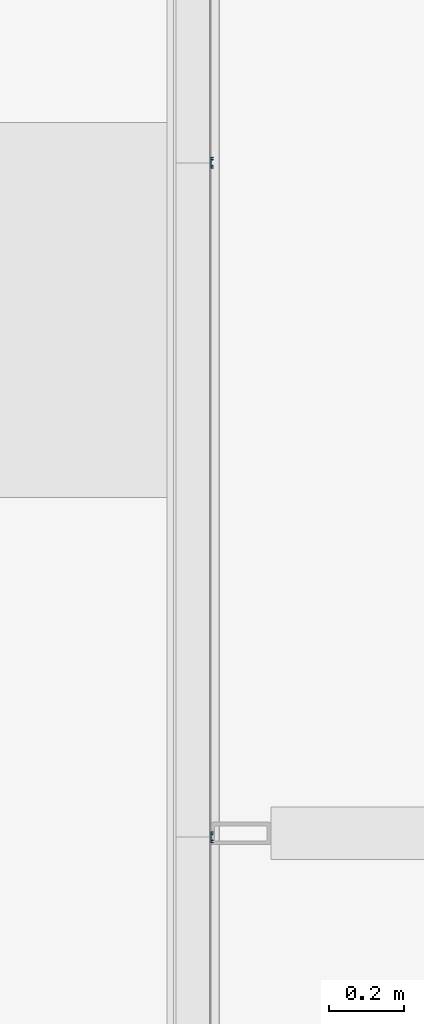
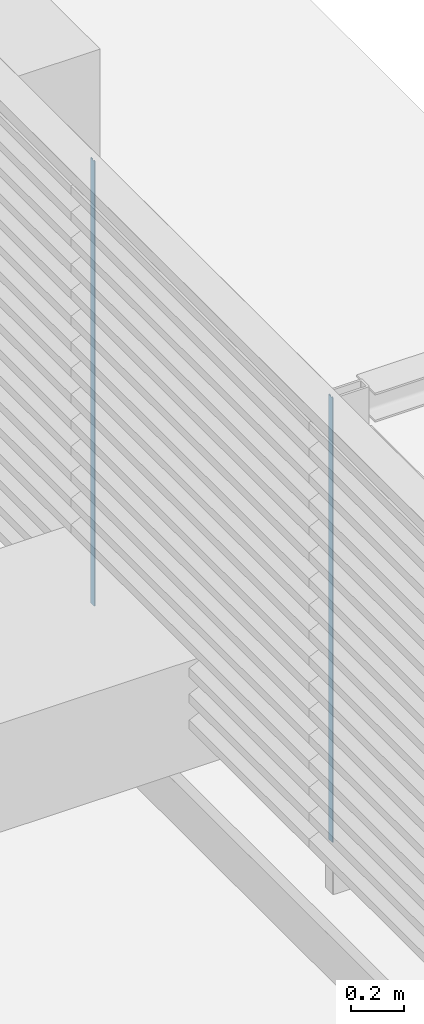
# One storey, part 16 of 32: 2 members, 1 element without a shape of its own.
"""IFC2X3 building model written with IfcOpenShell, lengths in millimetres."""

import ifcopenshell
import ifcopenshell.guid

model = None  # the IFC model being written
_history = None  # IfcOwnerHistory: only IFC2X3 demands one
_inside = {}  # id of a spatial element -> (the spatial element, [elements in it])
_under = {}  # id of a project, library or spatial element -> (it, [spatial elements below it])
_declared = {}  # id of a project -> (the project, [libraries it declares])
_typed = {}  # id of a type object -> (the type object, [elements of that type])
_made_of = {}  # id of a material, layer set ... -> (it, [elements and type objects made of it])


def new_model(schema):
    """Start an empty IFC model of exactly this schema.

    Asked for "IFC4X3", IfcOpenShell would pick the latest addendum, in which some entities
    have other attributes; the version numbers below select the first issue.
    IFC2X3 requires an IfcOwnerHistory on every rooted entity: one is made here for all.
    """
    global model, _history
    if schema == "IFC4X3":
        model = ifcopenshell.file(schema_version=(4, 3, 0, 0))
    else:
        model = ifcopenshell.file(schema=schema)
    _inside.clear()
    _under.clear()
    _declared.clear()
    _typed.clear()
    _made_of.clear()
    _history = None
    if model.schema == "IFC2X3":
        org = make("IfcOrganization", Name="unknown")
        user = make(
            "IfcPersonAndOrganization",
            ThePerson=make("IfcPerson", FamilyName="unknown"),
            TheOrganization=org,
        )
        app = make(
            "IfcApplication",
            ApplicationDeveloper=org,
            Version="unknown",
            ApplicationFullName="unknown",
            ApplicationIdentifier="unknown",
        )
        _history = make(
            "IfcOwnerHistory",
            OwningUser=user,
            OwningApplication=app,
            ChangeAction="ADDED",
            CreationDate=0,
        )
    return model


def make(cls, **values):
    """One entity of the class cls with the attributes given. An attribute that is None is left unset."""
    return model.create_entity(
        cls, **{name: value for name, value in values.items() if value is not None}
    )


def entity(cls, *values):
    """Any entity or typed value of the class cls, its attributes in the order of the schema. None: left unset."""
    e = model.create_entity(cls)
    for i, value in enumerate(values):
        if value is not None:
            e[i] = value
    return e


def rooted(cls, **values):
    """An entity with a GlobalId (a new one), such as an element, a storey or a relation."""
    return make(cls, GlobalId=ifcopenshell.guid.new(), OwnerHistory=_history, **values)


def si_unit(unit_type, name, prefix=None):
    """IfcSIUnit, for example si_unit("LENGTHUNIT", "METRE", prefix="MILLI")."""
    return make("IfcSIUnit", UnitType=unit_type, Prefix=prefix, Name=name)


def converted_unit(unit_type, name, factor, base, dimensions=None, offset=None):
    """IfcConversionBasedUnit, such as the inch: factor (a typed value) times the base unit."""
    return make(
        "IfcConversionBasedUnit"
        if offset is None
        else "IfcConversionBasedUnitWithOffset",
        ConversionOffset=offset,
        Dimensions=None
        if dimensions is None
        else entity("IfcDimensionalExponents", *dimensions),
        UnitType=unit_type,
        Name=name,
        ConversionFactor=make(
            "IfcMeasureWithUnit", ValueComponent=factor, UnitComponent=base
        ),
    )


def derived_unit(unit_type, elements):
    """IfcDerivedUnit: a product of units, each with its exponent."""
    return make(
        "IfcDerivedUnit",
        Elements=[
            make("IfcDerivedUnitElement", Unit=unit, Exponent=power)
            for unit, power in elements
        ],
        UnitType=unit_type,
    )


def assignment(units):
    """IfcUnitAssignment: the units of a project."""
    return None if units is None else make("IfcUnitAssignment", Units=units)


def point(xyz):
    """IfcCartesianPoint."""
    return None if xyz is None else make("IfcCartesianPoint", Coordinates=xyz)


def direction(xyz):
    """IfcDirection."""
    return None if xyz is None else make("IfcDirection", DirectionRatios=xyz)


def frame(location, z_axis=None, x_axis=None):
    """IfcAxis2Placement3D, a coordinate frame: its origin and axes. An axis left out is left unset."""
    return make(
        "IfcAxis2Placement3D",
        Location=point(location),
        Axis=direction(z_axis),
        RefDirection=direction(x_axis),
    )


def frame_2d(location, x_axis=None):
    """IfcAxis2Placement2D, a coordinate frame in the plane: its origin and x axis."""
    return make(
        "IfcAxis2Placement2D", Location=point(location), RefDirection=direction(x_axis)
    )


def origin():
    """The frame at (0, 0, 0) with its axes left unset."""
    return frame((0.0, 0.0, 0.0))


def place(relative_to, where):
    """IfcLocalPlacement: puts the frame where relative to a parent placement (None: the world)."""
    return make(
        "IfcLocalPlacement", PlacementRelTo=relative_to, RelativePlacement=where
    )


def context(
    kind, dimensions, precision=None, world=None, true_north=None, identifier=None
):
    """IfcGeometricRepresentationContext, for example the 3D "Model" context."""
    return make(
        "IfcGeometricRepresentationContext",
        ContextIdentifier=identifier,
        ContextType=kind,
        CoordinateSpaceDimension=dimensions,
        Precision=precision,
        WorldCoordinateSystem=world,
        TrueNorth=true_north,
    )


def subcontext(parent, identifier, kind, view, scale=None):
    """IfcGeometricRepresentationSubContext, for example "Body" below "Model"."""
    return make(
        "IfcGeometricRepresentationSubContext",
        ContextIdentifier=identifier,
        ContextType=kind,
        ParentContext=parent,
        TargetScale=scale,
        TargetView=view,
    )


def project(units=None, contexts=None):
    """IfcProject with its units and contexts."""
    return rooted(
        "IfcProject",
        Name="project",
        RepresentationContexts=contexts,
        UnitsInContext=assignment(units),
    )


def spatial(cls, under=None, at=None, **own):
    """A site, building, storey or space (cls), placed at a placement, below another one or the project."""
    s = rooted(cls, ObjectPlacement=at, **own)
    if under is not None:
        _under.setdefault(under.id(), (under, []))[1].append(s)
    return s


def polyline(points):
    """IfcPolyline through the points."""
    return make("IfcPolyline", Points=[point(p) for p in points])


def circle_curve(where, radius):
    """IfcCircle in the frame where."""
    return make("IfcCircle", Position=where, Radius=radius)


def parameter(value):
    """IfcParameterValue: where a trimmed curve begins or ends, as a parameter of its basis curve."""
    return model.create_entity("IfcParameterValue", value)


def trimmed(basis, trim1, trim2, sense, master):
    """IfcTrimmedCurve: the piece of a basis curve between two trims."""
    return make(
        "IfcTrimmedCurve",
        BasisCurve=basis,
        Trim1=trim1,
        Trim2=trim2,
        SenseAgreement=sense,
        MasterRepresentation=master,
    )


def segment(curve, same_sense, transition):
    """IfcCompositeCurveSegment."""
    return make(
        "IfcCompositeCurveSegment",
        Transition=transition,
        SameSense=same_sense,
        ParentCurve=curve,
    )


def composite_curve(segments, self_intersect=None):
    """IfcCompositeCurve: segments joined end to end."""
    return make("IfcCompositeCurve", Segments=segments, SelfIntersect=self_intersect)


def outline(outer, holes=None, kind="AREA"):
    """IfcArbitraryClosedProfileDef: a profile drawn as a closed curve; with holes, ...WithVoids."""
    if holes is None:
        return make("IfcArbitraryClosedProfileDef", ProfileType=kind, OuterCurve=outer)
    return make(
        "IfcArbitraryProfileDefWithVoids",
        ProfileType=kind,
        OuterCurve=outer,
        InnerCurves=holes,
    )


def extrude(swept, where, along, depth):
    """IfcExtrudedAreaSolid: the profile swept, set in the frame where, extruded along a direction by depth."""
    return make(
        "IfcExtrudedAreaSolid",
        SweptArea=swept,
        Position=where,
        ExtrudedDirection=direction(along),
        Depth=depth,
    )


def shape(context_of_items, identifier, shape_type, items):
    """IfcShapeRepresentation: the items that make up one representation, for example the "Body"."""
    return make(
        "IfcShapeRepresentation",
        ContextOfItems=context_of_items,
        RepresentationIdentifier=identifier,
        RepresentationType=shape_type,
        Items=items,
    )


def source(mapping_origin, context_of_items, identifier, shape_type, items):
    """IfcRepresentationMap: a shape defined once, which mapped items show again and again."""
    return make(
        "IfcRepresentationMap",
        MappingOrigin=mapping_origin,
        MappedRepresentation=shape(context_of_items, identifier, shape_type, items),
    )


def transform(
    local_origin,
    x_axis=None,
    y_axis=None,
    z_axis=None,
    scale=None,
    scale2=None,
    scale3=None,
    uniform=True,
):
    """IfcCartesianTransformationOperator3D, or its non-uniform kind. x_axis, y_axis, z_axis: its Axis1, 2, 3."""
    if uniform:
        return make(
            "IfcCartesianTransformationOperator3D",
            Axis1=direction(x_axis),
            Axis2=direction(y_axis),
            LocalOrigin=point(local_origin),
            Scale=scale,
            Axis3=direction(z_axis),
        )
    return make(
        "IfcCartesianTransformationOperator3DnonUniform",
        Axis1=direction(x_axis),
        Axis2=direction(y_axis),
        LocalOrigin=point(local_origin),
        Scale=scale,
        Axis3=direction(z_axis),
        Scale2=scale2,
        Scale3=scale3,
    )


def mapped(mapping_source, mapping_target):
    """IfcMappedItem: shows the shape of a source again, moved by a transform."""
    return make(
        "IfcMappedItem", MappingSource=mapping_source, MappingTarget=mapping_target
    )


def material(Name=None, Category=None):
    """IfcMaterial."""
    return make("IfcMaterial", Name=Name, Category=Category)


def made_of(thing, what):
    """Note that an element or type object is made of a material, layer set ...; save() writes the relation."""
    if what is not None:
        _made_of.setdefault(what.id(), (what, []))[1].append(thing)
    return thing


def type_object(cls, material=None, **own):
    """A type object (cls), such as IfcWallType, which elements share."""
    return made_of(rooted(cls, **own), material)


def type_shapes(of_type, sources):
    """Give a type object the sources (RepresentationMaps) that its elements show as mapped items."""
    of_type.RepresentationMaps = sources


def element(
    cls,
    number,
    at=None,
    inside=None,
    cuts=None,
    type_object=None,
    material=None,
    context=None,
    identifier="Body",
    shape_type=None,
    held_by="IfcProductDefinitionShape",
    body=None,
    shapes=None,
    **own,
):
    """One element of the class cls, such as IfcWall. Its Tag is "e" and its number.

    at: its placement. inside: the storey or other place that contains it. cuts: it is an
    opening in that element (IfcRelVoidsElement). A single representation is given by context,
    identifier, shape_type and body (its items); several are given by shapes. held_by: the class
    of the entity that holds the representations. save() writes the other relations.
    """
    e = rooted(cls, Tag="e%d" % number, ObjectPlacement=at, **own)
    if body is not None:
        shapes = [shape(context, identifier, shape_type, body)]
    if shapes is not None:
        e.Representation = make(held_by, Representations=shapes)
    if inside is not None:
        _inside.setdefault(inside.id(), (inside, []))[1].append(e)
    if cuts is not None:
        rooted(
            "IfcRelVoidsElement", RelatingBuildingElement=cuts, RelatedOpeningElement=e
        )
    if type_object is not None:
        _typed.setdefault(type_object.id(), (type_object, []))[1].append(e)
    return made_of(e, material)


def aggregate(whole, parts):
    """IfcRelAggregates: a whole, such as a stair, and the parts it consists of."""
    return rooted("IfcRelAggregates", RelatingObject=whole, RelatedObjects=parts)


def save(model, path):
    """Write the relations noted so far, then the file.

    IfcRelAggregates (storeys below a building ...), IfcRelContainedInSpatialStructure (elements
    in a storey), IfcRelDefinesByType, IfcRelAssociatesMaterial and IfcRelDeclares: one each for
    every whole, place, type object, material and project.
    """
    for whole, parts in _under.values():
        aggregate(whole, parts)
    for where, things in _inside.values():
        rooted(
            "IfcRelContainedInSpatialStructure",
            RelatedElements=things,
            RelatingStructure=where,
        )
    for kind, things in _typed.values():
        rooted("IfcRelDefinesByType", RelatedObjects=things, RelatingType=kind)
    for what, things in _made_of.values():
        rooted("IfcRelAssociatesMaterial", RelatedObjects=things, RelatingMaterial=what)
    for by, libraries in _declared.values():
        rooted("IfcRelDeclares", RelatingContext=by, RelatedDefinitions=libraries)
    model.write(path)


model = new_model("IFC2X3")

# Units and contexts
model_context = context("Model", 3, precision=0.01, world=origin(), true_north=direction((6.123031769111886e-17, 1.0)))
body_context = subcontext(model_context, "Body", "Model", "MODEL_VIEW")
ifc_project = project(units=[si_unit("LENGTHUNIT", "METRE", prefix="MILLI"), si_unit("AREAUNIT", "SQUARE_METRE"), si_unit("VOLUMEUNIT", "CUBIC_METRE"), converted_unit("PLANEANGLEUNIT", "DEGREE", entity("IfcRatioMeasure", 0.017453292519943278), si_unit("PLANEANGLEUNIT", "RADIAN"), dimensions=[0, 0, 0, 0, 0, 0, 0]), si_unit("MASSUNIT", "GRAM", prefix="KILO"), derived_unit("MASSDENSITYUNIT", [(si_unit("MASSUNIT", "GRAM", prefix="KILO"), 1), (si_unit("LENGTHUNIT", "METRE"), -3)]), derived_unit("IONCONCENTRATIONUNIT", [(si_unit("MASSUNIT", "GRAM", prefix="KILO"), 1), (si_unit("LENGTHUNIT", "METRE"), -3)]), derived_unit("MOMENTOFINERTIAUNIT", [(si_unit("LENGTHUNIT", "METRE"), 4)]), si_unit("TIMEUNIT", "SECOND"), si_unit("FREQUENCYUNIT", "HERTZ"), si_unit("THERMODYNAMICTEMPERATUREUNIT", "DEGREE_CELSIUS"), derived_unit("THERMALTRANSMITTANCEUNIT", [(si_unit("MASSUNIT", "GRAM", prefix="KILO"), 1), (si_unit("THERMODYNAMICTEMPERATUREUNIT", "KELVIN"), -1), (si_unit("TIMEUNIT", "SECOND"), -3)]), derived_unit("THERMALCONDUCTANCEUNIT", [(si_unit("MASSUNIT", "GRAM", prefix="KILO"), 1), (si_unit("THERMODYNAMICTEMPERATUREUNIT", "KELVIN"), -1), (si_unit("TIMEUNIT", "SECOND"), -3), (si_unit("LENGTHUNIT", "METRE"), 1)]), derived_unit("VOLUMETRICFLOWRATEUNIT", [(si_unit("LENGTHUNIT", "METRE"), 3), (si_unit("TIMEUNIT", "SECOND"), -1)]), derived_unit("MASSFLOWRATEUNIT", [(si_unit("MASSUNIT", "GRAM", prefix="KILO"), 1), (si_unit("TIMEUNIT", "SECOND"), -1)]), derived_unit("ROTATIONALFREQUENCYUNIT", [(si_unit("TIMEUNIT", "SECOND"), -1)]), si_unit("ELECTRICCURRENTUNIT", "AMPERE"), si_unit("ELECTRICVOLTAGEUNIT", "VOLT"), si_unit("POWERUNIT", "WATT"), si_unit("FORCEUNIT", "NEWTON", prefix="KILO"), si_unit("ILLUMINANCEUNIT", "LUX"), si_unit("LUMINOUSFLUXUNIT", "LUMEN"), si_unit("LUMINOUSINTENSITYUNIT", "CANDELA"), derived_unit("USERDEFINED", [(si_unit("MASSUNIT", "GRAM", prefix="KILO"), -1), (si_unit("LENGTHUNIT", "METRE"), -2), (si_unit("TIMEUNIT", "SECOND"), 3), (si_unit("LUMINOUSFLUXUNIT", "LUMEN"), 1)]), derived_unit("USERDEFINED", [(si_unit("MASSUNIT", "GRAM", prefix="KILO"), 1), (si_unit("TIMEUNIT", "SECOND"), -3), (si_unit("LENGTHUNIT", "METRE"), 3), (si_unit("ELECTRICCURRENTUNIT", "AMPERE"), -2)]), derived_unit("SOUNDPOWERUNIT", [(si_unit("MASSUNIT", "GRAM", prefix="KILO"), 1), (si_unit("TIMEUNIT", "SECOND"), -3), (si_unit("LENGTHUNIT", "METRE"), 2)]), derived_unit("SOUNDPRESSUREUNIT", [(si_unit("MASSUNIT", "GRAM", prefix="KILO"), 1), (si_unit("LENGTHUNIT", "METRE"), -1), (si_unit("TIMEUNIT", "SECOND"), -2)]), derived_unit("LINEARVELOCITYUNIT", [(si_unit("LENGTHUNIT", "METRE"), 1), (si_unit("TIMEUNIT", "SECOND"), -1)]), si_unit("PRESSUREUNIT", "PASCAL"), derived_unit("USERDEFINED", [(si_unit("MASSUNIT", "GRAM", prefix="KILO"), 1), (si_unit("LENGTHUNIT", "METRE"), -2), (si_unit("TIMEUNIT", "SECOND"), -2)]), derived_unit("LINEARFORCEUNIT", [(si_unit("MASSUNIT", "GRAM", prefix="KILO"), 1), (si_unit("TIMEUNIT", "SECOND"), -2)]), derived_unit("PLANARFORCEUNIT", [(si_unit("MASSUNIT", "GRAM", prefix="KILO"), 1), (si_unit("LENGTHUNIT", "METRE"), -1), (si_unit("TIMEUNIT", "SECOND"), -2)]), derived_unit("SPECIFICHEATCAPACITYUNIT", [(si_unit("THERMODYNAMICTEMPERATUREUNIT", "KELVIN"), -1), (si_unit("LENGTHUNIT", "METRE"), 2), (si_unit("TIMEUNIT", "SECOND"), -2)]), derived_unit("HEATINGVALUEUNIT", [(si_unit("LENGTHUNIT", "METRE"), 2), (si_unit("TIMEUNIT", "SECOND"), -2)]), derived_unit("VAPORPERMEABILITYUNIT", [(si_unit("LENGTHUNIT", "METRE"), -1), (si_unit("TIMEUNIT", "SECOND"), 1)]), derived_unit("DYNAMICVISCOSITYUNIT", [(si_unit("MASSUNIT", "GRAM", prefix="KILO"), 1), (si_unit("TIMEUNIT", "SECOND"), -1), (si_unit("LENGTHUNIT", "METRE"), -1)]), derived_unit("THERMALEXPANSIONCOEFFICIENTUNIT", [(si_unit("THERMODYNAMICTEMPERATUREUNIT", "KELVIN"), -1)]), derived_unit("MODULUSOFELASTICITYUNIT", [(si_unit("MASSUNIT", "GRAM", prefix="KILO"), 1), (si_unit("LENGTHUNIT", "METRE"), -1), (si_unit("TIMEUNIT", "SECOND"), -2)]), derived_unit("ISOTHERMALMOISTURECAPACITYUNIT", [(si_unit("LENGTHUNIT", "METRE"), 3), (si_unit("MASSUNIT", "GRAM", prefix="KILO"), -1)]), derived_unit("MOISTUREDIFFUSIVITYUNIT", [(si_unit("TIMEUNIT", "SECOND"), -1), (si_unit("LENGTHUNIT", "METRE"), 2)])], contexts=[model_context])

# Site, building, storey
site_placement = place(None, frame((0.0, 300.0, 0.0)))
site = spatial("IfcSite", under=ifc_project, at=site_placement, Name="<Kadastrale nummers>", CompositionType="ELEMENT")
building_placement = place(site_placement, origin())
building = spatial("IfcBuilding", under=site, at=building_placement, CompositionType="ELEMENT")
storey_placement = place(building_placement, frame((0.0, 0.0, 7150.000035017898)))
storey = spatial("IfcBuildingStorey", under=building, at=storey_placement, Name="02 tweede verdieping", CompositionType="ELEMENT", Elevation=7150.000035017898)

# Curtain wall, members
curtain_wall_type = type_object("IfcCurtainWallType", Name="Curtain Wall:NLRS_21_CWA_lamellenwand Linius - L.120 met LD.0065_Storax", PredefinedType="NOTDEFINED")
curtain_wall_placement = place(storey_placement, frame((0.0, 0.0, -7150.000035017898)))
curtain_wall = element("IfcCurtainWall", 1, at=curtain_wall_placement, inside=storey, type_object=curtain_wall_type, Name="Curtain Wall:NLRS_21_CWA_lamellenwand Linius - L.120 met LD.0065_Storax", ObjectType="Curtain Wall:NLRS_21_CWA_lamellenwand Linius - L.120 met LD.0065_Storax")
ifc_material = material(Name="STAAL_RAL 7006")
member_type = type_object("IfcMemberType", Name="Rectangular Mullion:NLRS_21_CWM_drager LD.0065_Storax", PredefinedType="MULLION", material=ifc_material)
shared_shape = source(origin(), body_context, "Body", "SweptSolid", [
    extrude(outline(composite_curve([segment(polyline([(-1.4234637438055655, -14.998975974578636), (3.696834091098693, -14.998975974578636)]), True, "CONTINUOUS"), segment(polyline([(3.696834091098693, -14.998975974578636), (3.696834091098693, 15.001024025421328)]), True, "CONTINUOUS"), segment(polyline([(3.696834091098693, 15.001024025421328), (-1.4234637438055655, 15.001024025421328)]), True, "CONTINUOUS"), segment(trimmed(circle_curve(frame_2d((-1.4234637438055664, 14.001024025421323), x_axis=(0.0, 1.0)), 1.0000000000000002), [parameter(0.0)], [parameter(241.34010185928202)], True, "PARAMETER"), True, "CONTINUOUS"), segment(polyline([(-0.5459816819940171, 13.521414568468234), (2.196834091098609, 13.521414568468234)]), True, "CONTINUOUS"), segment(polyline([(2.196834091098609, 13.521414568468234), (2.196834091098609, 9.648596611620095)]), True, "CONTINUOUS"), segment(polyline([(2.196834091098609, 9.648596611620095), (-2.803165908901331, 9.648596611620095)]), True, "CONTINUOUS"), segment(polyline([(-2.803165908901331, 9.648596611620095), (-2.803165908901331, 7.8879641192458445)]), True, "CONTINUOUS"), segment(polyline([(-2.803165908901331, 7.8879641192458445), (-1.6031201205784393, 7.8879641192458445)]), True, "CONTINUOUS"), segment(polyline([(-1.6031201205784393, 7.8879641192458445), (-1.6031201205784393, 6.348596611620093)]), True, "CONTINUOUS"), segment(polyline([(-1.6031201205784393, 6.348596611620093), (0.2473405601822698, 6.348596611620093)]), True, "CONTINUOUS"), segment(polyline([(0.2473405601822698, 6.348596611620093), (0.2473405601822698, 7.88796411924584)]), True, "CONTINUOUS"), segment(polyline([(0.2473405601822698, 7.88796411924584), (2.1968340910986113, 7.88796411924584)]), True, "CONTINUOUS"), segment(polyline([(2.1968340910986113, 7.88796411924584), (2.1968340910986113, -7.885916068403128)]), True, "CONTINUOUS"), segment(polyline([(2.1968340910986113, -7.885916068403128), (0.2473405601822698, -7.885916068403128)]), True, "CONTINUOUS"), segment(polyline([(0.2473405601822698, -7.885916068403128), (0.2473405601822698, -6.358836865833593)]), True, "CONTINUOUS"), segment(polyline([(0.2473405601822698, -6.358836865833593), (-1.6031201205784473, -6.358836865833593)]), True, "CONTINUOUS"), segment(polyline([(-1.6031201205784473, -6.358836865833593), (-1.6031201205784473, -7.885916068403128)]), True, "CONTINUOUS"), segment(polyline([(-1.6031201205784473, -7.885916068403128), (-2.803165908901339, -7.885916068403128)]), True, "CONTINUOUS"), segment(polyline([(-2.803165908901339, -7.885916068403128), (-2.803165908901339, -9.646548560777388)]), True, "CONTINUOUS"), segment(polyline([(-2.803165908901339, -9.646548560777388), (2.1968340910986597, -9.646548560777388)]), True, "CONTINUOUS"), segment(polyline([(2.1968340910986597, -9.646548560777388), (2.1968340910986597, -13.519366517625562)]), True, "CONTINUOUS"), segment(polyline([(2.1968340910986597, -13.519366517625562), (-0.5459816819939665, -13.519366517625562)]), True, "CONTINUOUS"), segment(trimmed(circle_curve(frame_2d((-1.4234637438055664, -13.998975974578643), x_axis=(0.8774820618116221, 0.4796094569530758)), 1.0000000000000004), [parameter(0.0)], [parameter(241.34010185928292)], True, "PARAMETER"), True, "CONTINUOUS")], self_intersect=False)), frame((-0.0010240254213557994, 4.696834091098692, -2049.999964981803), z_axis=(0.0, 0.0, 1.0), x_axis=(0.0, -1.0, 0.0)), (0.0, 0.0, 1.0), 2049.999964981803),
])
type_shapes(member_type, [shared_shape])
member_1_placement = place(curtain_wall_placement, frame((38414.0, 42590.0, 7650.000035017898), z_axis=(0.0, 0.0, -1.0), x_axis=(0.0, 1.0, 0.0)))
member_1 = element("IfcMember", 2, at=member_1_placement, type_object=member_type, material=ifc_material, Name="Rectangular Mullion:NLRS_21_CWM_drager LD.0065_Storax", ObjectType="Rectangular Mullion:NLRS_21_CWM_drager LD.0065_Storax", context=body_context, shape_type="MappedRepresentation", body=[
    mapped(shared_shape, transform((0.0, 0.0, 0.0), scale=1.0)),
])
member_2_placement = place(curtain_wall_placement, frame((38414.0, 44387.49999984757, 7650.000035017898), z_axis=(0.0, 0.0, -1.0), x_axis=(0.0, 1.0, 0.0)))
member_2 = element("IfcMember", 3, at=member_2_placement, type_object=member_type, material=ifc_material, Name="Rectangular Mullion:NLRS_21_CWM_drager LD.0065_Storax", ObjectType="Rectangular Mullion:NLRS_21_CWM_drager LD.0065_Storax", context=body_context, shape_type="MappedRepresentation", body=[
    mapped(shared_shape, transform((0.0, 0.0, 0.0), scale=1.0)),
])
aggregate(curtain_wall, [member_1, member_2])

save(model, "model.ifc")
